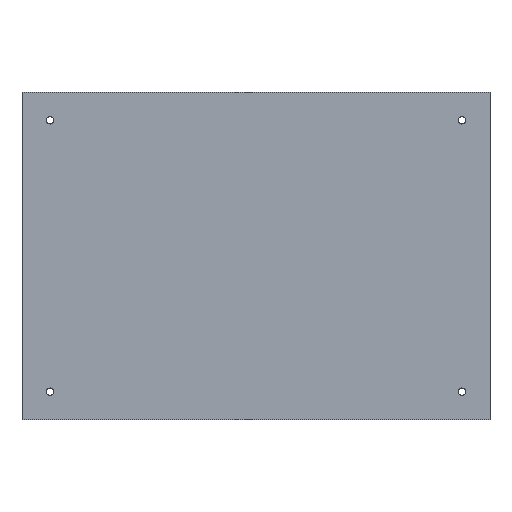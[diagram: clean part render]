
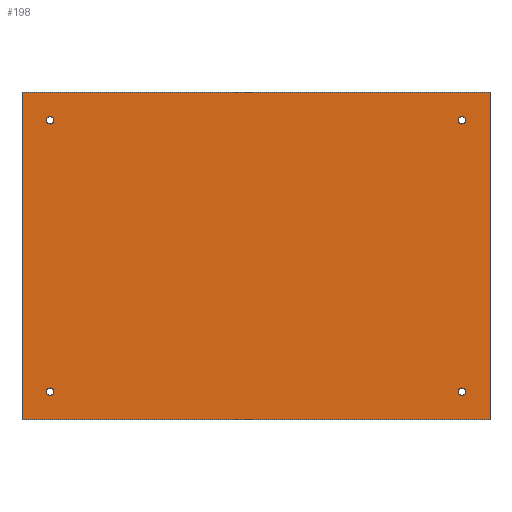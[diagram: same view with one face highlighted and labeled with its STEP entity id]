
A CAD part, top view. The second image highlights one B-rep face of the part: STEP entity #198.
In plain terms, the highlighted planar face has unit normal (0, 0, 1).
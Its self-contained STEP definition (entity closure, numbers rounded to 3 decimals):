
#42 = VERTEX_POINT('',#43);
#43 = CARTESIAN_POINT('',(200.,-140.,1.51));
#49 = EDGE_CURVE('',#42,#50,#52,.T.);
#50 = VERTEX_POINT('',#51);
#51 = CARTESIAN_POINT('',(0.,-140.,1.51));
#52 = LINE('',#53,#54);
#53 = CARTESIAN_POINT('',(200.,-140.,1.51));
#54 = VECTOR('',#55,1.);
#55 = DIRECTION('',(-1.,0.,0.));
#82 = VERTEX_POINT('',#83);
#83 = CARTESIAN_POINT('',(200.,0.,1.51));
#89 = EDGE_CURVE('',#82,#42,#90,.T.);
#90 = LINE('',#91,#92);
#91 = CARTESIAN_POINT('',(200.,0.,1.51));
#92 = VECTOR('',#93,1.);
#93 = DIRECTION('',(0.,-1.,0.));
#111 = EDGE_CURVE('',#50,#112,#114,.T.);
#112 = VERTEX_POINT('',#113);
#113 = CARTESIAN_POINT('',(0.,0.,1.51));
#114 = LINE('',#115,#116);
#115 = CARTESIAN_POINT('',(0.,-140.,1.51));
#116 = VECTOR('',#117,1.);
#117 = DIRECTION('',(0.,1.,0.));
#198 = ADVANCED_FACE('',(#199,#210,#221,#232,#243),#254,.T.);
#199 = FACE_BOUND('',#200,.T.);
#200 = EDGE_LOOP('',(#201,#202,#203,#209));
#201 = ORIENTED_EDGE('',*,*,#49,.F.);
#202 = ORIENTED_EDGE('',*,*,#89,.F.);
#203 = ORIENTED_EDGE('',*,*,#204,.F.);
#204 = EDGE_CURVE('',#112,#82,#205,.T.);
#205 = LINE('',#206,#207);
#206 = CARTESIAN_POINT('',(0.,0.,1.51));
#207 = VECTOR('',#208,1.);
#208 = DIRECTION('',(1.,0.,0.));
#209 = ORIENTED_EDGE('',*,*,#111,.F.);
#210 = FACE_BOUND('',#211,.T.);
#211 = EDGE_LOOP('',(#212));
#212 = ORIENTED_EDGE('',*,*,#213,.T.);
#213 = EDGE_CURVE('',#214,#214,#216,.T.);
#214 = VERTEX_POINT('',#215);
#215 = CARTESIAN_POINT('',(12.,-129.6,1.51));
#216 = CIRCLE('',#217,1.6);
#217 = AXIS2_PLACEMENT_3D('',#218,#219,#220);
#218 = CARTESIAN_POINT('',(12.,-128.,1.51));
#219 = DIRECTION('',(-0.,0.,-1.));
#220 = DIRECTION('',(-0.,-1.,0.));
#221 = FACE_BOUND('',#222,.T.);
#222 = EDGE_LOOP('',(#223));
#223 = ORIENTED_EDGE('',*,*,#224,.T.);
#224 = EDGE_CURVE('',#225,#225,#227,.T.);
#225 = VERTEX_POINT('',#226);
#226 = CARTESIAN_POINT('',(188.,-129.6,1.51));
#227 = CIRCLE('',#228,1.6);
#228 = AXIS2_PLACEMENT_3D('',#229,#230,#231);
#229 = CARTESIAN_POINT('',(188.,-128.,1.51));
#230 = DIRECTION('',(-0.,0.,-1.));
#231 = DIRECTION('',(-0.,-1.,0.));
#232 = FACE_BOUND('',#233,.T.);
#233 = EDGE_LOOP('',(#234));
#234 = ORIENTED_EDGE('',*,*,#235,.T.);
#235 = EDGE_CURVE('',#236,#236,#238,.T.);
#236 = VERTEX_POINT('',#237);
#237 = CARTESIAN_POINT('',(12.,-13.6,1.51));
#238 = CIRCLE('',#239,1.6);
#239 = AXIS2_PLACEMENT_3D('',#240,#241,#242);
#240 = CARTESIAN_POINT('',(12.,-12.,1.51));
#241 = DIRECTION('',(-0.,0.,-1.));
#242 = DIRECTION('',(-0.,-1.,0.));
#243 = FACE_BOUND('',#244,.T.);
#244 = EDGE_LOOP('',(#245));
#245 = ORIENTED_EDGE('',*,*,#246,.T.);
#246 = EDGE_CURVE('',#247,#247,#249,.T.);
#247 = VERTEX_POINT('',#248);
#248 = CARTESIAN_POINT('',(188.,-13.6,1.51));
#249 = CIRCLE('',#250,1.6);
#250 = AXIS2_PLACEMENT_3D('',#251,#252,#253);
#251 = CARTESIAN_POINT('',(188.,-12.,1.51));
#252 = DIRECTION('',(-0.,0.,-1.));
#253 = DIRECTION('',(-0.,-1.,0.));
#254 = PLANE('',#255);
#255 = AXIS2_PLACEMENT_3D('',#256,#257,#258);
#256 = CARTESIAN_POINT('',(0.,0.,1.51));
#257 = DIRECTION('',(0.,0.,1.));
#258 = DIRECTION('',(1.,0.,-0.));
